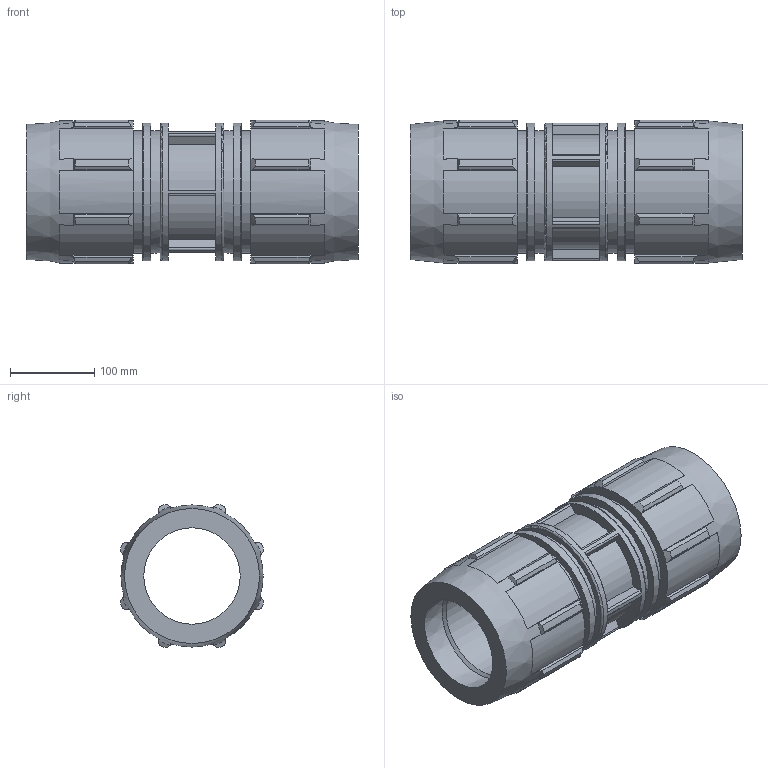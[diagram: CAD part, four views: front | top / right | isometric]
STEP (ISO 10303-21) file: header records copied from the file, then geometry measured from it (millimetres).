
FILE_DESCRIPTION(/* description */ ('PLASSON REPAIR COUPLER 4'''' - 4'''''),/* implementation_level */ '2;1');
FILE_NAME(/* name */ 'C:\Dropbox\KIMPROJECTS-Inventor 2019\99-16-3568-Processing Inch\ASTM Compression 2021\0761M\0761M0040.ipt.stp',/* time_stamp */ '2021-08-26T12:34:49+03:00',/* author */ ('KIM'),/* organization */ (''),/* preprocessor_version */ 'ST-DEVELOPER v17.2',/* originating_system */ 'Autodesk Inventor 2019',/* authorisation */ '');
FILE_SCHEMA (('AUTOMOTIVE_DESIGN { 1 0 10303 214 3 1 1 }'));
Length unit declared in the file: inch
Products named in the file (1): 0761M0040
Bounding box: 392.94 x 170.16 x 170.16 mm (x, y, z)
Volume: 3959021.4 mm3; surface area: 427896.5 mm2
Topology: 1 solids, 1 shells, 214 faces, 614 edges, 418 vertices
Faces by surface type: plane 100, cylinder 58, cone 38, torus 18
Full cylindrical faces by diameter (mm): 114.1 x1, 144.678 x4, 162.763 x3
Entity records: 7217 total; most frequent: CARTESIAN_POINT 1543, ORIENTED_EDGE 1228, DIRECTION 1184, EDGE_CURVE 614, AXIS2_PLACEMENT_3D 443, VERTEX_POINT 418, LINE 298, VECTOR 298
